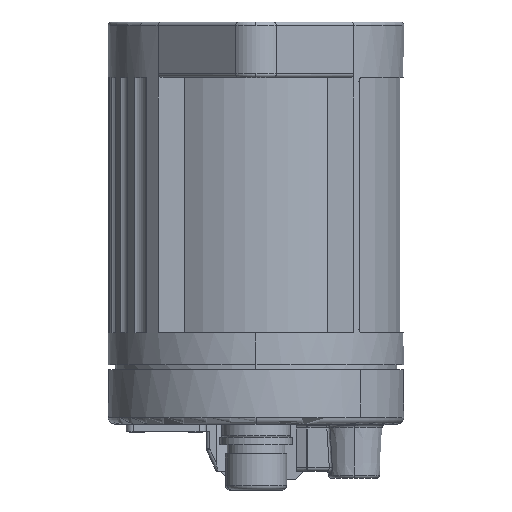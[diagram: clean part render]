
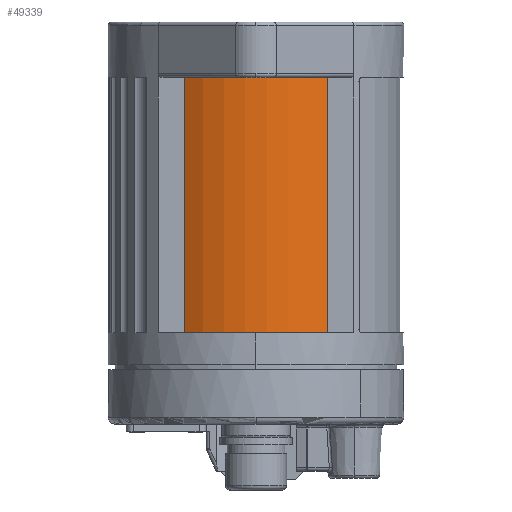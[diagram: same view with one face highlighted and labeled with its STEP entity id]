
A CAD part, front view. The second image highlights one B-rep face of the part: STEP entity #49339.
In plain terms, the highlighted cylindrical face has radius 18.3 mm (diameter 36.6 mm), a partial arc.
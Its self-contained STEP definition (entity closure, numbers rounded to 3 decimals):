
#710 = CARTESIAN_POINT ( 'NONE',  ( 13.322, -21.419, 65.081 ) ) ;
#2120 = DIRECTION ( 'NONE',  ( 0., 0., 1. ) ) ;
#3073 = VERTEX_POINT ( 'NONE', #21896 ) ;
#3930 = DIRECTION ( 'NONE',  ( 0., 0., -1. ) ) ;
#4459 = DIRECTION ( 'NONE',  ( 0., 0., -1. ) ) ;
#4962 = DIRECTION ( 'NONE',  ( 0., -1., 0. ) ) ;
#6892 = FACE_OUTER_BOUND ( 'NONE', #35573, .T. ) ;
#7100 = CARTESIAN_POINT ( 'NONE',  ( -6.604, -21.419, 19.781 ) ) ;
#7362 = CARTESIAN_POINT ( 'NONE',  ( 3.359, -6.069, 19.781 ) ) ;
#7753 = DIRECTION ( 'NONE',  ( 0., 0., 1. ) ) ;
#10778 = EDGE_CURVE ( 'NONE', #3073, #45745, #18484, .T. ) ;
#17522 = ORIENTED_EDGE ( 'NONE', *, *, #44527, .F. ) ;
#18484 = LINE ( 'NONE', #36357, #22711 ) ;
#20491 = VECTOR ( 'NONE', #7753, 1000. ) ;
#21339 = CYLINDRICAL_SURFACE ( 'NONE', #22647, 18.3 ) ;
#21896 = CARTESIAN_POINT ( 'NONE',  ( 13.322, -21.419, 29.681 ) ) ;
#22146 = AXIS2_PLACEMENT_3D ( 'NONE', #46025, #3930, #30797 ) ;
#22647 = AXIS2_PLACEMENT_3D ( 'NONE', #7362, #45732, #49384 ) ;
#22711 = VECTOR ( 'NONE', #2120, 1000. ) ;
#28177 = ORIENTED_EDGE ( 'NONE', *, *, #29232, .T. ) ;
#29232 = EDGE_CURVE ( 'NONE', #45745, #31840, #47682, .T. ) ;
#30797 = DIRECTION ( 'NONE',  ( 0., -1., 0. ) ) ;
#31840 = VERTEX_POINT ( 'NONE', #40689 ) ;
#35573 = EDGE_LOOP ( 'NONE', ( #28177, #17522, #48388, #43640 ) ) ;
#35635 = VERTEX_POINT ( 'NONE', #45337 ) ;
#36008 = LINE ( 'NONE', #7100, #20491 ) ;
#36357 = CARTESIAN_POINT ( 'NONE',  ( 13.322, -21.419, 19.781 ) ) ;
#39484 = CARTESIAN_POINT ( 'NONE',  ( 3.359, -6.069, 65.081 ) ) ;
#40058 = CIRCLE ( 'NONE', #22146, 18.3 ) ;
#40689 = CARTESIAN_POINT ( 'NONE',  ( -6.604, -21.419, 65.081 ) ) ;
#43351 = EDGE_CURVE ( 'NONE', #3073, #35635, #40058, .T. ) ;
#43640 = ORIENTED_EDGE ( 'NONE', *, *, #10778, .T. ) ;
#44527 = EDGE_CURVE ( 'NONE', #35635, #31840, #36008, .T. ) ;
#44740 = AXIS2_PLACEMENT_3D ( 'NONE', #39484, #4459, #4962 ) ;
#45337 = CARTESIAN_POINT ( 'NONE',  ( -6.604, -21.419, 29.681 ) ) ;
#45732 = DIRECTION ( 'NONE',  ( 0., 0., 1. ) ) ;
#45745 = VERTEX_POINT ( 'NONE', #710 ) ;
#46025 = CARTESIAN_POINT ( 'NONE',  ( 3.359, -6.069, 29.681 ) ) ;
#47682 = CIRCLE ( 'NONE', #44740, 18.3 ) ;
#48388 = ORIENTED_EDGE ( 'NONE', *, *, #43351, .F. ) ;
#49339 = ADVANCED_FACE ( 'NONE', ( #6892 ), #21339, .T. ) ;
#49384 = DIRECTION ( 'NONE',  ( 0., 1., 0. ) ) ;
